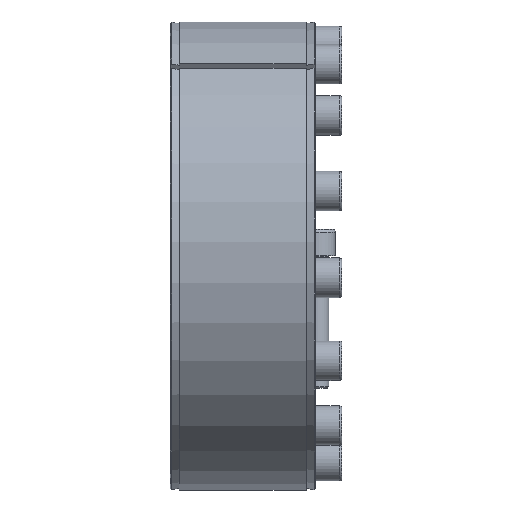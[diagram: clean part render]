
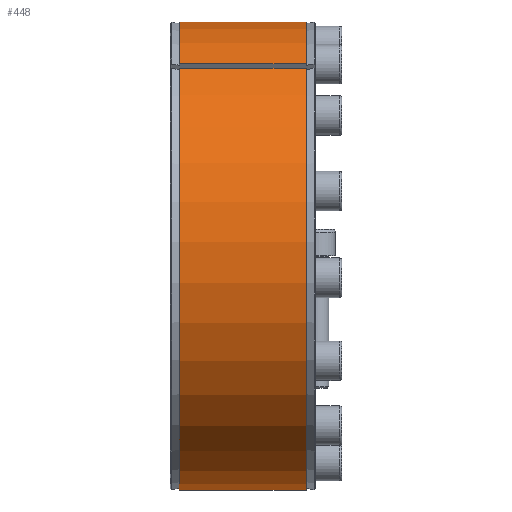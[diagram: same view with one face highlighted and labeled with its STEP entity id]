
A CAD part, left-side view. The second image highlights one B-rep face of the part: STEP entity #448.
In plain terms, the highlighted cylindrical face has radius 177.5 mm (diameter 355 mm), a partial arc.
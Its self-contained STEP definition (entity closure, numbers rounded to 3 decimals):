
#448 = ADVANCED_FACE( '', ( #787 ), #788, .T. );
#787 = FACE_OUTER_BOUND( '', #1124, .T. );
#788 = CYLINDRICAL_SURFACE( '', #1125, 177.5 );
#1124 = EDGE_LOOP( '', ( #1741, #1742, #1743, #1744 ) );
#1125 = AXIS2_PLACEMENT_3D( '', #1745, #1746, #1747 );
#1741 = ORIENTED_EDGE( '', *, *, #2321, .T. );
#1742 = ORIENTED_EDGE( '', *, *, #2285, .T. );
#1743 = ORIENTED_EDGE( '', *, *, #2344, .F. );
#1744 = ORIENTED_EDGE( '', *, *, #2428, .T. );
#1745 = CARTESIAN_POINT( '', ( 0., -60., 0. ) );
#1746 = DIRECTION( '', ( 0., 1., 0. ) );
#1747 = DIRECTION( '', ( 0., 0., -1. ) );
#2285 = EDGE_CURVE( '', #2605, #2603, #2606, .T. );
#2321 = EDGE_CURVE( '', #2671, #2605, #2672, .T. );
#2344 = EDGE_CURVE( '', #2713, #2603, #2714, .T. );
#2428 = EDGE_CURVE( '', #2713, #2671, #2856, .F. );
#2603 = VERTEX_POINT( '', #3045 );
#2605 = VERTEX_POINT( '', #3048 );
#2606 = LINE( '', #3049, #3050 );
#2671 = VERTEX_POINT( '', #3140 );
#2672 = CIRCLE( '', #3141, 177.5 );
#2713 = VERTEX_POINT( '', #3190 );
#2714 = CIRCLE( '', #3191, 177.5 );
#2856 = LINE( '', #3602, #3603 );
#3045 = CARTESIAN_POINT( '', ( -102.095, 7., 145.2 ) );
#3048 = CARTESIAN_POINT( '', ( -102.095, 103., 145.2 ) );
#3049 = CARTESIAN_POINT( '', ( -102.095, -60., 145.2 ) );
#3050 = VECTOR( '', #3740, 1000. );
#3140 = CARTESIAN_POINT( '', ( -106.544, 103., 141.967 ) );
#3141 = AXIS2_PLACEMENT_3D( '', #3817, #3818, #3819 );
#3190 = CARTESIAN_POINT( '', ( -106.544, 7., 141.967 ) );
#3191 = AXIS2_PLACEMENT_3D( '', #3876, #3877, #3878 );
#3602 = CARTESIAN_POINT( '', ( -106.544, -60., 141.967 ) );
#3603 = VECTOR( '', #4064, 1000. );
#3740 = DIRECTION( '', ( 0., -1., 0. ) );
#3817 = CARTESIAN_POINT( '', ( 0., 103., 0. ) );
#3818 = DIRECTION( '', ( 0., -1., 0. ) );
#3819 = DIRECTION( '', ( 0., 0., -1. ) );
#3876 = CARTESIAN_POINT( '', ( 0., 7., 0. ) );
#3877 = DIRECTION( '', ( 0., -1., 0. ) );
#3878 = DIRECTION( '', ( 0., 0., -1. ) );
#4064 = DIRECTION( '', ( 0., -1., 0. ) );
